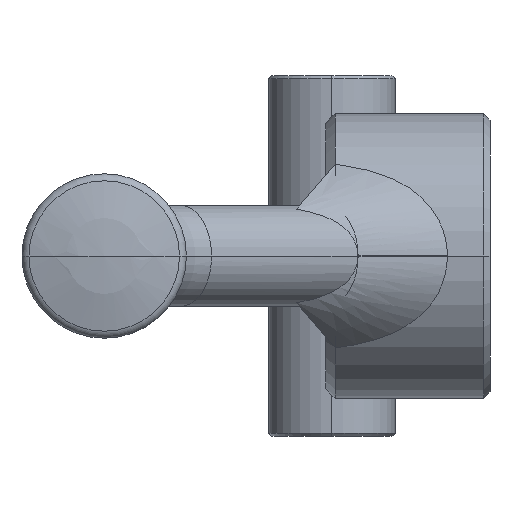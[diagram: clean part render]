
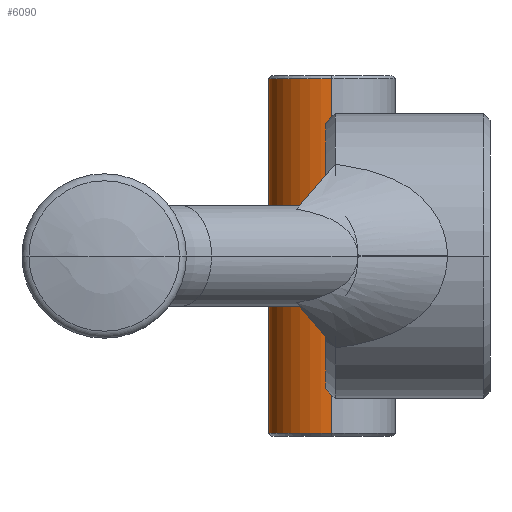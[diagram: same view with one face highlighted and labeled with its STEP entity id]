
A CAD part, left-side view. The second image highlights one B-rep face of the part: STEP entity #6090.
In plain terms, the highlighted cylindrical face has radius 10 mm (diameter 20 mm), a partial arc.
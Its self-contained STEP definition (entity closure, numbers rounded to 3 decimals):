
#5983=CARTESIAN_POINT('',(0.,28.,0.));
#5984=DIRECTION('',(0.,-1.,0.));
#5985=DIRECTION('',(-1.,0.,0.));
#5986=AXIS2_PLACEMENT_3D('',#5983,#5984,#5985);
#5988=CARTESIAN_POINT('',(0.,-28.,0.));
#5989=DIRECTION('',(0.,1.,0.));
#5990=DIRECTION('',(1.,0.,0.));
#5991=AXIS2_PLACEMENT_3D('',#5988,#5989,#5990);
#5998=DIRECTION('',(0.,-1.,0.));
#5999=VECTOR('',#5998,56.);
#6000=CARTESIAN_POINT('',(10.,28.,
0.));
#6001=LINE('',#6000,#5999);
#6007=DIRECTION('',(0.,1.,0.));
#6008=VECTOR('',#6007,56.);
#6009=CARTESIAN_POINT('',(-10.,-28.,
0.));
#6010=LINE('',#6009,#6008);
#6033=CARTESIAN_POINT('',(-10.,28.,0.));
#6034=CARTESIAN_POINT('',(10.,28.,0.));
#6035=VERTEX_POINT('',#6033);
#6036=VERTEX_POINT('',#6034);
#6041=CARTESIAN_POINT('',(10.,-28.,0.));
#6042=CARTESIAN_POINT('',(-10.,-28.,0.));
#6043=VERTEX_POINT('',#6041);
#6044=VERTEX_POINT('',#6042);
#6076=CARTESIAN_POINT('',(0.,29.925,0.));
#6077=DIRECTION('',(0.,-1.,0.));
#6078=DIRECTION('',(-1.,0.,0.));
#6079=AXIS2_PLACEMENT_3D('',#6076,#6077,#6078);
#6080=CYLINDRICAL_SURFACE('',#6079,10.);
#6081=ORIENTED_EDGE('',*,*,#6066,.F.);
#6083=ORIENTED_EDGE('',*,*,#6082,.F.);
#6085=ORIENTED_EDGE('',*,*,#6084,.F.);
#6087=ORIENTED_EDGE('',*,*,#6086,.F.);
#6088=EDGE_LOOP('',(#6081,#6083,#6085,#6087));
#6089=FACE_OUTER_BOUND('',#6088,.F.);
#6090=ADVANCED_FACE('',(#6089),#6080,.T.);
#5987=CIRCLE('',#5986,10.);
#5992=CIRCLE('',#5991,10.);
#6066=EDGE_CURVE('',#6035,#6036,#5987,.T.);
#6082=EDGE_CURVE('',#6044,#6035,#6010,.T.);
#6084=EDGE_CURVE('',#6043,#6044,#5992,.T.);
#6086=EDGE_CURVE('',#6036,#6043,#6001,.T.);
